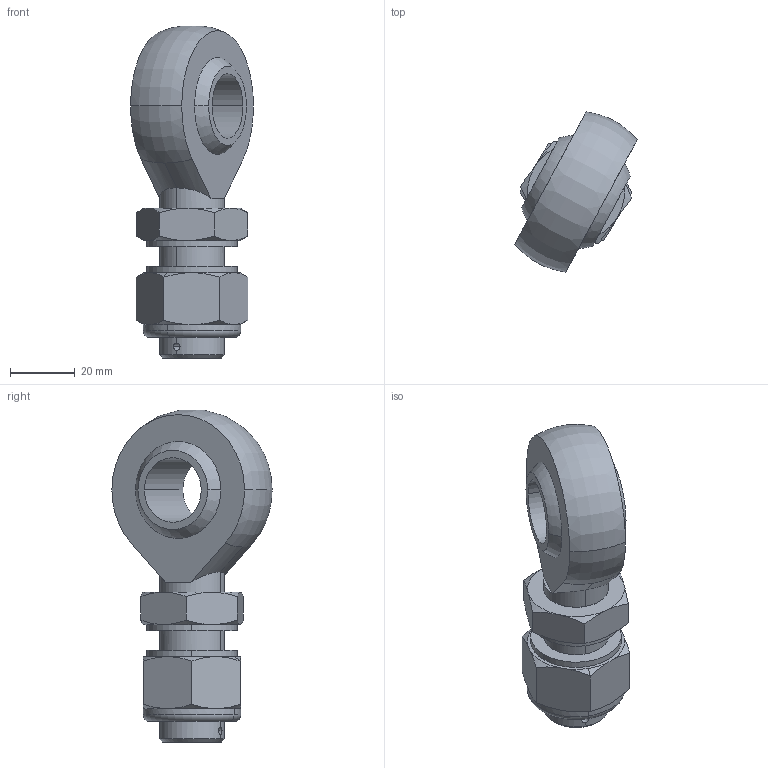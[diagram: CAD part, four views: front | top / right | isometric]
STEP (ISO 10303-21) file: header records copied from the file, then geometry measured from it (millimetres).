
FILE_DESCRIPTION (( 'STEP AP214' ), '1' );
FILE_NAME ('900.100.103.STEP', '2015-02-23T15:34:48', ( '' ), ( '' ), 'SwSTEP 2.0', 'SolidWorks 2012', '' );
FILE_SCHEMA (( 'AUTOMOTIVE_DESIGN' ));
Length unit declared in the file: millimetre
Products named in the file (5): 900.100.103; hex thin nut chamfered gradeab_iso_Hexagon Thin Nut ISO - 4035 - M20 - N; DADO ESAGONALE M20 AUTOBLOCCANTE_M20 UNI7473; RONDELLE UNI 6592_20x28 UNI6592; SNODO PFE 20U
Assembly tree (5 placements, depth 2):
  900.100.103
    hex thin nut chamfered gradeab_iso_Hexagon Thin Nut ISO - 4035 - M20 - N
    DADO ESAGONALE M20 AUTOBLOCCANTE_M20 UNI7473
    RONDELLE UNI 6592_20x28 UNI6592  x2
    SNODO PFE 20U
Bounding box: 38 x 49.61 x 102.75 mm (x, y, z)
Volume: 63684.4 mm3; surface area: 19482 mm2
Topology: 5 solids, 5 shells, 101 faces, 229 edges, 138 vertices
Faces by surface type: plane 33, cone 32, cylinder 27, torus 9
Entity records: 3155 total; most frequent: CARTESIAN_POINT 822, DIRECTION 459, ORIENTED_EDGE 434, EDGE_CURVE 217, AXIS2_PLACEMENT_3D 199, VERTEX_POINT 130, EDGE_LOOP 105, CIRCLE 96
